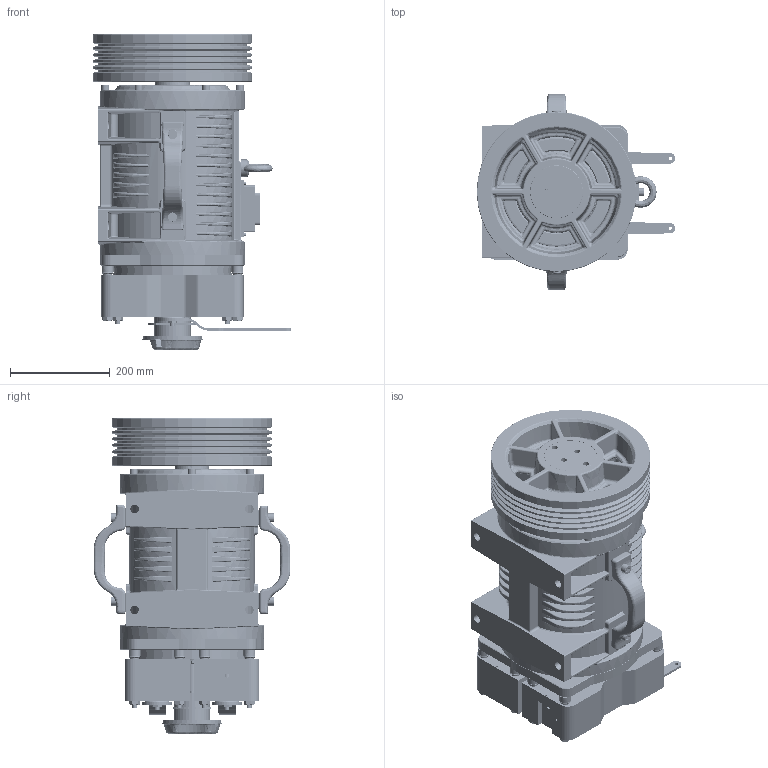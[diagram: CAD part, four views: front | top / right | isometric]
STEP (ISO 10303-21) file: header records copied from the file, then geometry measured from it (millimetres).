
FILE_DESCRIPTION (( 'STEP AP214' ), '1' );
FILE_NAME ('QS23248100.STEP', '2025-12-25T08:35:44', ( '' ), ( '' ), 'SwSTEP 2.0', 'SolidWorks 2023', '' );
FILE_SCHEMA (( 'AUTOMOTIVE_DESIGN' ));
Length unit declared in the file: millimetre
Products named in the file (1): QS23248100
Bounding box: 398.05 x 394 x 631.88 mm (x, y, z)
Volume: 33491445 mm3; surface area: 2259057.4 mm2
Topology: 66 solids, 99 shells, 4693 faces, 11303 edges, 6920 vertices
Faces by surface type: cylinder 1500, bspline 1306, plane 1305, cone 582
Entity records: 214125 total; most frequent: CARTESIAN_POINT 113221, ORIENTED_EDGE 22304, DIRECTION 18773, EDGE_CURVE 11152, AXIS2_PLACEMENT_3D 7420, VERTEX_POINT 6920, EDGE_LOOP 5188, ADVANCED_FACE 4693
